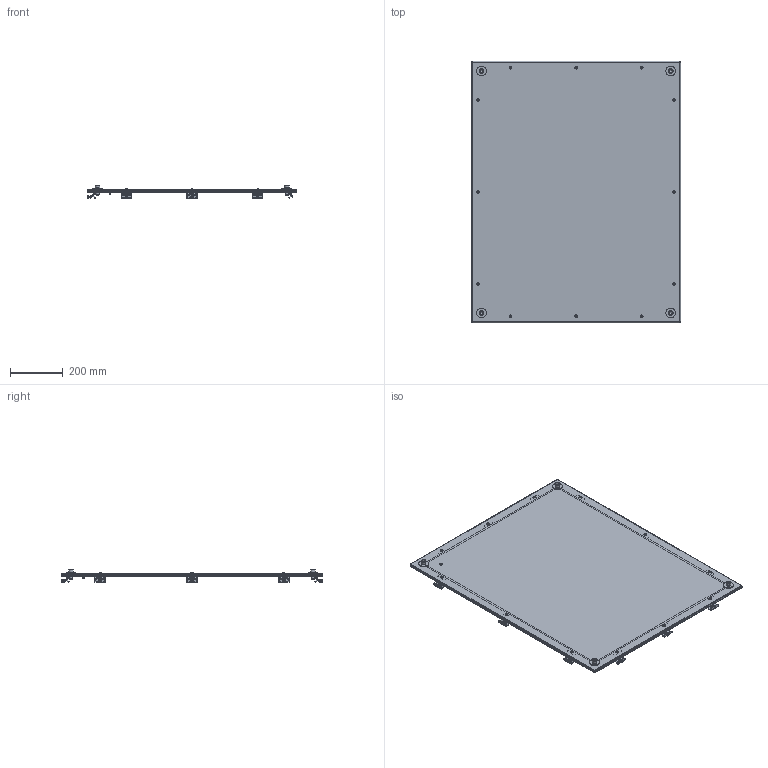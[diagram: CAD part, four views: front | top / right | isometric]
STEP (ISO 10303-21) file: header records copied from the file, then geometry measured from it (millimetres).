
FILE_DESCRIPTION(('STEP AP203'), '1');
FILE_NAME('3301 Êðûøà ÑÁ', '', ('UNSPECIFIED'), ('UNSPECIFIED'), 'C3D Converter', 'C3D Toolkit', '');
FILE_SCHEMA(('CONFIG_CONTROL_DESIGN'));
Length unit declared in the file: millimetre
Products named in the file (14): 3301.100.80; 3310; 3311; 3009.04.ПН; 3009.04.01.ПН; 3009.04.П-К; 3009.04.01.П-К
Assembly tree (56 placements, depth 3):
  3301.100.80
    3310
      3311
      (unnamed)
    (unnamed)  x12
    (unnamed)  x12
    (unnamed)  x4
    (unnamed)  x4
    3009.04.ПН  x3
      3009.04.01.ПН
      (unnamed)
      (unnamed)
    3009.04.П-К  x9
      3009.04.01.П-К
      (unnamed)
      (unnamed)
Bounding box: 796.5 x 997 x 49 mm (x, y, z)
Volume: 1436639.9 mm3; surface area: 1846232.5 mm2
Topology: 92 solids, 92 shells, 3020 faces, 7970 edges, 5236 vertices
Faces by surface type: plane 2062, cylinder 806, cone 111, sphere 20, torus 17, bspline 4
Full cylindrical faces by diameter (mm): 4.134 x21, 5 x36, 5.5 x12, 5.8 x21, 6 x1, 7.5 x12, 8.3 x24, 8.5 x12, 9.2 x24, 10 x12, 11.5 x2, 12 x4, 13.5 x4, 14 x4, 18 x4, 37 x4
Entity records: 17976 total; most frequent: CARTESIAN_POINT 6269, DIRECTION 2129, ORIENTED_EDGE 1858, EDGE_CURVE 929, AXIS2_PLACEMENT_3D 760, LINE 609, VECTOR 609, VERTEX_POINT 596
